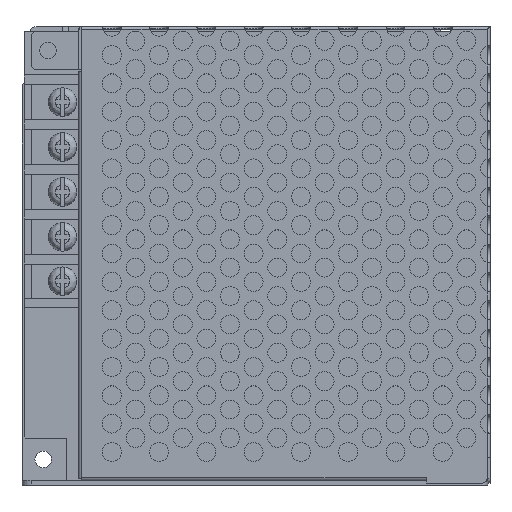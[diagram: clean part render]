
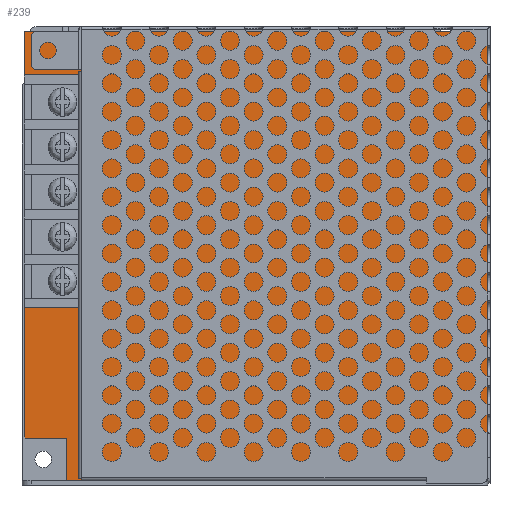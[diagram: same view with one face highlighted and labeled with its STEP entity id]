
A CAD part, top view. The second image highlights one B-rep face of the part: STEP entity #239.
In plain terms, the highlighted planar face has unit normal (0, 0, 1).
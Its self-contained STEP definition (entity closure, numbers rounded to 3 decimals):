
#15=DIRECTION('',(0.,-1.,0.));
#16=VECTOR('',#15,85.75);
#17=CARTESIAN_POINT('',(-315.667,283.625,0.));
#18=LINE('',#17,#16);
#23=DIRECTION('',(-1.,0.,0.));
#24=VECTOR('',#23,98.);
#25=CARTESIAN_POINT('',(-217.667,283.625,0.));
#26=LINE('',#25,#24);
#30=DIRECTION('',(1.,0.,0.));
#31=VECTOR('',#30,88.75);
#32=CARTESIAN_POINT('',(-306.417,188.625,0.));
#33=LINE('',#32,#31);
#37=DIRECTION('',(0.707,-0.707,0.));
#38=VECTOR('',#37,0.354);
#39=CARTESIAN_POINT('',(-306.667,188.875,0.));
#40=LINE('',#39,#38);
#44=DIRECTION('',(0.,-1.,0.));
#45=VECTOR('',#44,8.75);
#46=CARTESIAN_POINT('',(-306.667,197.625,0.));
#47=LINE('',#46,#45);
#51=DIRECTION('',(1.,0.,0.));
#52=VECTOR('',#51,8.75);
#53=CARTESIAN_POINT('',(-315.417,197.625,0.));
#54=LINE('',#53,#52);
#58=DIRECTION('',(0.707,-0.707,0.));
#59=VECTOR('',#58,0.354);
#60=CARTESIAN_POINT('',(-315.667,197.875,0.));
#61=LINE('',#60,#59);
#170=DIRECTION('',(0.,-1.,0.));
#171=VECTOR('',#170,95.);
#172=CARTESIAN_POINT('',(-217.667,283.625,0.));
#173=LINE('',#172,#171);
#184=CARTESIAN_POINT('',(-217.667,283.625,0.));
#185=CARTESIAN_POINT('',(-315.667,283.625,0.));
#186=VERTEX_POINT('',#184);
#187=VERTEX_POINT('',#185);
#188=CARTESIAN_POINT('',(-217.667,188.625,0.));
#189=VERTEX_POINT('',#188);
#190=CARTESIAN_POINT('',(-306.417,188.625,0.));
#191=VERTEX_POINT('',#190);
#192=CARTESIAN_POINT('',(-306.667,188.875,0.));
#193=VERTEX_POINT('',#192);
#194=CARTESIAN_POINT('',(-306.667,197.625,0.));
#195=VERTEX_POINT('',#194);
#196=CARTESIAN_POINT('',(-315.417,197.625,0.));
#197=VERTEX_POINT('',#196);
#198=CARTESIAN_POINT('',(-315.667,197.875,0.));
#199=VERTEX_POINT('',#198);
#216=CARTESIAN_POINT('',(0.,0.,0.));
#217=DIRECTION('',(0.,0.,1.));
#218=DIRECTION('',(1.,0.,0.));
#219=AXIS2_PLACEMENT_3D('',#216,#217,#218);
#220=PLANE('',#219);
#222=ORIENTED_EDGE('',*,*,#221,.F.);
#224=ORIENTED_EDGE('',*,*,#223,.F.);
#226=ORIENTED_EDGE('',*,*,#225,.T.);
#228=ORIENTED_EDGE('',*,*,#227,.F.);
#230=ORIENTED_EDGE('',*,*,#229,.F.);
#232=ORIENTED_EDGE('',*,*,#231,.F.);
#234=ORIENTED_EDGE('',*,*,#233,.F.);
#236=ORIENTED_EDGE('',*,*,#235,.F.);
#237=EDGE_LOOP('',(#222,#224,#226,#228,#230,#232,#234,#236));
#238=FACE_OUTER_BOUND('',#237,.F.);
#221=EDGE_CURVE('',#187,#199,#18,.T.);
#223=EDGE_CURVE('',#186,#187,#26,.T.);
#225=EDGE_CURVE('',#186,#189,#173,.T.);
#227=EDGE_CURVE('',#191,#189,#33,.T.);
#229=EDGE_CURVE('',#193,#191,#40,.T.);
#231=EDGE_CURVE('',#195,#193,#47,.T.);
#233=EDGE_CURVE('',#197,#195,#54,.T.);
#235=EDGE_CURVE('',#199,#197,#61,.T.);
#239=ADVANCED_FACE('',(#238),#220,.T.);
